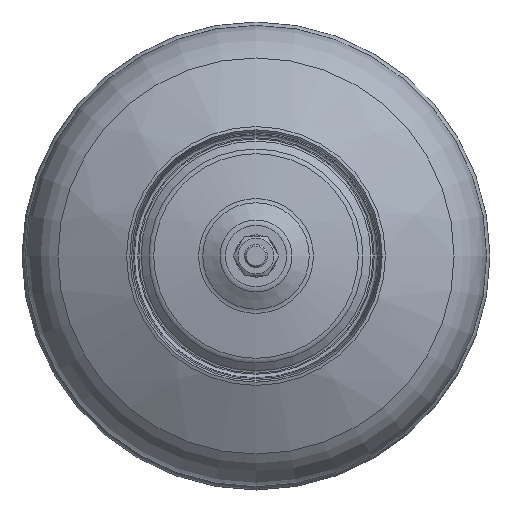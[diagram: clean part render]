
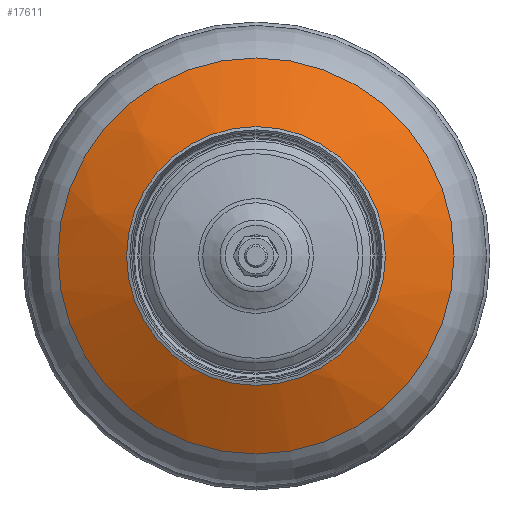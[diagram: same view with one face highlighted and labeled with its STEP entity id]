
A CAD part, front view. The second image highlights one B-rep face of the part: STEP entity #17611.
In plain terms, the highlighted spherical face has radius 159 mm.
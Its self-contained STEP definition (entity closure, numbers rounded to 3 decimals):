
#379=SPHERICAL_SURFACE('',#18897,159.);
#3996=FACE_BOUND('',#6155,.T.);
#5057=FACE_OUTER_BOUND('',#6154,.T.);
#6154=EDGE_LOOP('',(#15968));
#6155=EDGE_LOOP('',(#15969));
#6273=CIRCLE('',#17737,85.047);
#6539=CIRCLE('',#18898,51.971);
#6638=VERTEX_POINT('',#23275);
#8259=VERTEX_POINT('',#37418);
#8398=EDGE_CURVE('',#6638,#6638,#6273,.T.);
#10844=EDGE_CURVE('',#8259,#8259,#6539,.T.);
#15968=ORIENTED_EDGE('',*,*,#8398,.T.);
#15969=ORIENTED_EDGE('',*,*,#10844,.T.);
#17611=ADVANCED_FACE('',(#5057,#3996),#379,.T.);
#17737=AXIS2_PLACEMENT_3D('',#23276,#19149,#19150);
#18897=AXIS2_PLACEMENT_3D('',#37417,#22644,#22645);
#18898=AXIS2_PLACEMENT_3D('',#37419,#22646,#22647);
#19149=DIRECTION('center_axis',(0.,-1.,0.));
#19150=DIRECTION('ref_axis',(1.,0.,0.));
#22644=DIRECTION('center_axis',(0.,0.,
1.));
#22645=DIRECTION('ref_axis',(-1.,0.,0.));
#22646=DIRECTION('center_axis',(0.,1.,0.));
#22647=DIRECTION('ref_axis',(0.,0.,-1.));
#23275=CARTESIAN_POINT('',(85.047,-143.021,0.));
#23276=CARTESIAN_POINT('Origin',(0.,-143.021,
0.));
#37417=CARTESIAN_POINT('Origin',(0.,-8.678,
0.));
#37418=CARTESIAN_POINT('',(51.971,-158.944,0.));
#37419=CARTESIAN_POINT('Origin',(0.,-158.944,0.));
